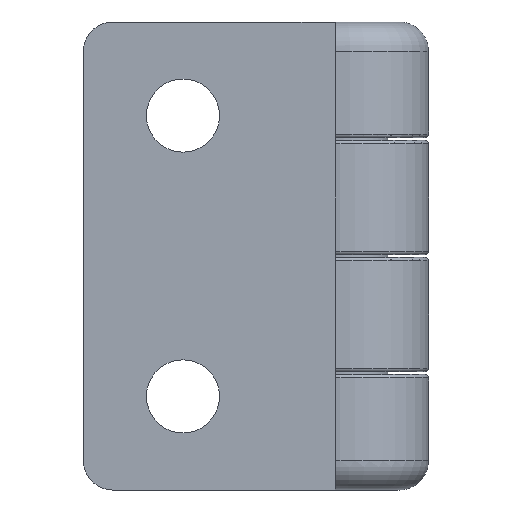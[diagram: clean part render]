
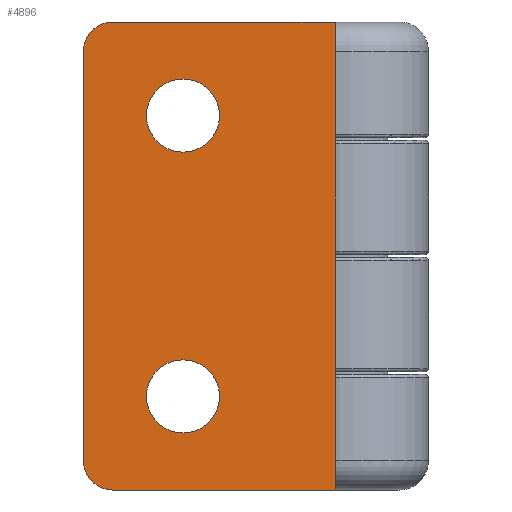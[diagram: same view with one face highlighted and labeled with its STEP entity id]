
A CAD part, front view. The second image highlights one B-rep face of the part: STEP entity #4896.
In plain terms, the highlighted planar face has unit normal (0, -1, 0).
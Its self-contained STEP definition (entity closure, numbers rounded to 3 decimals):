
#4 = CIRCLE ( 'NONE', #4811, 2.5 ) ;
#220 = EDGE_CURVE ( 'NONE', #3369, #7019, #4, .T. ) ;
#313 = VERTEX_POINT ( 'NONE', #6856 ) ;
#446 = CARTESIAN_POINT ( 'NONE',  ( -22., -10., 20. ) ) ;
#465 = AXIS2_PLACEMENT_3D ( 'NONE', #1194, #3816, #2523 ) ;
#594 = FACE_OUTER_BOUND ( 'NONE', #5415, .T. ) ;
#633 = LINE ( 'NONE', #1457, #6221 ) ;
#685 = CIRCLE ( 'NONE', #4807, 3.125 ) ;
#736 = LINE ( 'NONE', #7180, #6788 ) ;
#812 = CARTESIAN_POINT ( 'NONE',  ( -22., -10., 17.5 ) ) ;
#1194 = CARTESIAN_POINT ( 'NONE',  ( -0.5, -10., 20. ) ) ;
#1208 = EDGE_LOOP ( 'NONE', ( #6983 ) ) ;
#1291 = DIRECTION ( 'NONE',  ( 1., 0., 0. ) ) ;
#1325 = DIRECTION ( 'NONE',  ( -1., 0., 0. ) ) ;
#1344 = CARTESIAN_POINT ( 'NONE',  ( -19.5, -10., -20. ) ) ;
#1457 = CARTESIAN_POINT ( 'NONE',  ( -0.5, -10., -20. ) ) ;
#1613 = CARTESIAN_POINT ( 'NONE',  ( -19.5, -10., 17.5 ) ) ;
#1672 = ORIENTED_EDGE ( 'NONE', *, *, #5011, .T. ) ;
#1793 = FACE_BOUND ( 'NONE', #3297, .T. ) ;
#1829 = CARTESIAN_POINT ( 'NONE',  ( -22., -10., -17.5 ) ) ;
#1996 = DIRECTION ( 'NONE',  ( 0., 1., 0. ) ) ;
#2459 = CIRCLE ( 'NONE', #7133, 3.125 ) ;
#2492 = VERTEX_POINT ( 'NONE', #4446 ) ;
#2523 = DIRECTION ( 'NONE',  ( -1., 0., 0. ) ) ;
#2978 = ORIENTED_EDGE ( 'NONE', *, *, #220, .T. ) ;
#3027 = CARTESIAN_POINT ( 'NONE',  ( -13.5, -10., -8.875 ) ) ;
#3059 = DIRECTION ( 'NONE',  ( 0., 0., -1. ) ) ;
#3087 = ORIENTED_EDGE ( 'NONE', *, *, #4367, .F. ) ;
#3297 = EDGE_LOOP ( 'NONE', ( #7707 ) ) ;
#3347 = DIRECTION ( 'NONE',  ( 1., 0., 0. ) ) ;
#3369 = VERTEX_POINT ( 'NONE', #1829 ) ;
#3404 = DIRECTION ( 'NONE',  ( -1., 0., 0. ) ) ;
#3461 = CARTESIAN_POINT ( 'NONE',  ( -13.5, -10., -12. ) ) ;
#3567 = DIRECTION ( 'NONE',  ( 0., 0., 1. ) ) ;
#3603 = ORIENTED_EDGE ( 'NONE', *, *, #3690, .T. ) ;
#3690 = EDGE_CURVE ( 'NONE', #5032, #3369, #5734, .T. ) ;
#3716 = CARTESIAN_POINT ( 'NONE',  ( -13.5, -10., 15.125 ) ) ;
#3766 = VECTOR ( 'NONE', #7504, 1000. ) ;
#3769 = AXIS2_PLACEMENT_3D ( 'NONE', #1613, #4093, #3404 ) ;
#3800 = ORIENTED_EDGE ( 'NONE', *, *, #4428, .T. ) ;
#3816 = DIRECTION ( 'NONE',  ( 0., 1., 0. ) ) ;
#3912 = VECTOR ( 'NONE', #3059, 1000. ) ;
#4093 = DIRECTION ( 'NONE',  ( 0., -1., 0. ) ) ;
#4367 = EDGE_CURVE ( 'NONE', #5608, #313, #736, .T. ) ;
#4428 = EDGE_CURVE ( 'NONE', #5608, #5032, #7351, .T. ) ;
#4446 = CARTESIAN_POINT ( 'NONE',  ( -0.5, -10., -20. ) ) ;
#4807 = AXIS2_PLACEMENT_3D ( 'NONE', #3461, #8084, #3567 ) ;
#4811 = AXIS2_PLACEMENT_3D ( 'NONE', #5935, #6522, #1325 ) ;
#4879 = CARTESIAN_POINT ( 'NONE',  ( -0.5, -10., 20. ) ) ;
#4896 = ADVANCED_FACE ( 'NONE', ( #6950, #1793, #594 ), #6394, .F. ) ;
#5011 = EDGE_CURVE ( 'NONE', #7019, #2492, #633, .T. ) ;
#5032 = VERTEX_POINT ( 'NONE', #812 ) ;
#5191 = EDGE_CURVE ( 'NONE', #313, #2492, #8140, .T. ) ;
#5219 = CARTESIAN_POINT ( 'NONE',  ( -13.5, -10., 12. ) ) ;
#5415 = EDGE_LOOP ( 'NONE', ( #3603, #2978, #1672, #6400, #3087, #3800 ) ) ;
#5608 = VERTEX_POINT ( 'NONE', #8168 ) ;
#5700 = VERTEX_POINT ( 'NONE', #3716 ) ;
#5734 = LINE ( 'NONE', #446, #3912 ) ;
#5935 = CARTESIAN_POINT ( 'NONE',  ( -19.5, -10., -17.5 ) ) ;
#6221 = VECTOR ( 'NONE', #3347, 1000. ) ;
#6394 = PLANE ( 'NONE',  #465 ) ;
#6400 = ORIENTED_EDGE ( 'NONE', *, *, #5191, .F. ) ;
#6522 = DIRECTION ( 'NONE',  ( 0., -1., 0. ) ) ;
#6788 = VECTOR ( 'NONE', #1291, 1000. ) ;
#6856 = CARTESIAN_POINT ( 'NONE',  ( -0.5, -10., 20. ) ) ;
#6950 = FACE_BOUND ( 'NONE', #1208, .T. ) ;
#6983 = ORIENTED_EDGE ( 'NONE', *, *, #7130, .T. ) ;
#7017 = EDGE_CURVE ( 'NONE', #5700, #5700, #2459, .T. ) ;
#7019 = VERTEX_POINT ( 'NONE', #1344 ) ;
#7130 = EDGE_CURVE ( 'NONE', #7617, #7617, #685, .T. ) ;
#7133 = AXIS2_PLACEMENT_3D ( 'NONE', #5219, #1996, #7235 ) ;
#7180 = CARTESIAN_POINT ( 'NONE',  ( -0.5, -10., 20. ) ) ;
#7235 = DIRECTION ( 'NONE',  ( 0., 0., 1. ) ) ;
#7351 = CIRCLE ( 'NONE', #3769, 2.5 ) ;
#7504 = DIRECTION ( 'NONE',  ( 0., 0., -1. ) ) ;
#7617 = VERTEX_POINT ( 'NONE', #3027 ) ;
#7707 = ORIENTED_EDGE ( 'NONE', *, *, #7017, .T. ) ;
#8084 = DIRECTION ( 'NONE',  ( 0., 1., 0. ) ) ;
#8140 = LINE ( 'NONE', #4879, #3766 ) ;
#8168 = CARTESIAN_POINT ( 'NONE',  ( -19.5, -10., 20. ) ) ;
